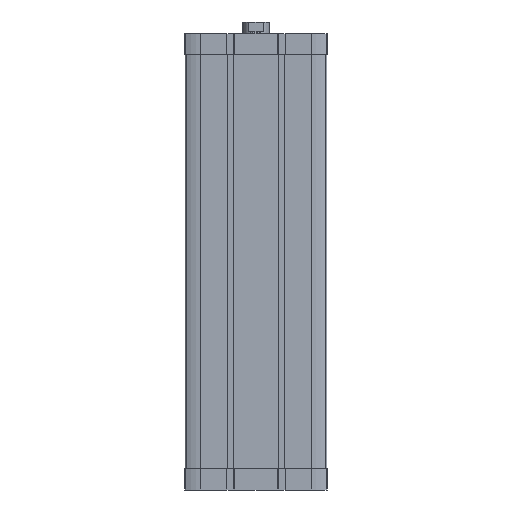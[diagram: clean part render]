
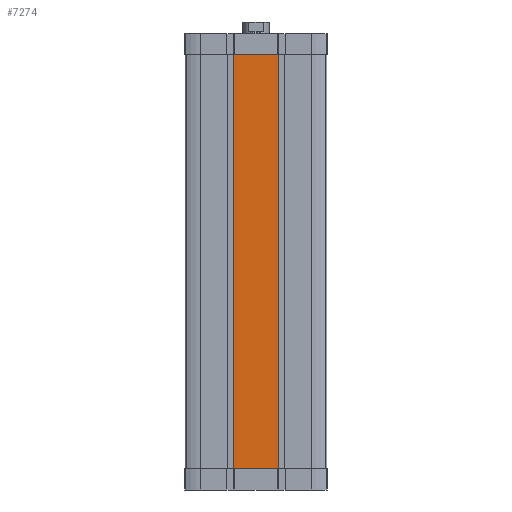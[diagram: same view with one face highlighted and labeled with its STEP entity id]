
A CAD part, front view. The second image highlights one B-rep face of the part: STEP entity #7274.
In plain terms, the highlighted planar face has unit normal (0, -1, 0).
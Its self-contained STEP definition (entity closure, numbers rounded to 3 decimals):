
#144 = CARTESIAN_POINT ( 'NONE',  ( -67., -67., -411. ) ) ;
#206 = CARTESIAN_POINT ( 'NONE',  ( 21.3, -67., -20. ) ) ;
#956 = VERTEX_POINT ( 'NONE', #5728 ) ;
#1327 = VERTEX_POINT ( 'NONE', #15003 ) ;
#1841 = EDGE_CURVE ( 'NONE', #9824, #10088, #9396, .T. ) ;
#2112 = DIRECTION ( 'NONE',  ( 1., 0., 0. ) ) ;
#2322 = VECTOR ( 'NONE', #16099, 1000. ) ;
#2388 = DIRECTION ( 'NONE',  ( 1., 0., 0. ) ) ;
#2421 = ORIENTED_EDGE ( 'NONE', *, *, #4755, .F. ) ;
#2435 = VERTEX_POINT ( 'NONE', #15104 ) ;
#2811 = EDGE_CURVE ( 'NONE', #11758, #9824, #5853, .T. ) ;
#2863 = DIRECTION ( 'NONE',  ( 1., 0., 0. ) ) ;
#3230 = ORIENTED_EDGE ( 'NONE', *, *, #11125, .T. ) ;
#3681 = CARTESIAN_POINT ( 'NONE',  ( 21.3, -67., -411. ) ) ;
#3686 = CARTESIAN_POINT ( 'NONE',  ( -67., -67., -411. ) ) ;
#3734 = FACE_OUTER_BOUND ( 'NONE', #11591, .T. ) ;
#3819 = PLANE ( 'NONE',  #16762 ) ;
#4186 = VECTOR ( 'NONE', #2863, 1000. ) ;
#4256 = VERTEX_POINT ( 'NONE', #206 ) ;
#4439 = LINE ( 'NONE', #12256, #2322 ) ;
#4755 = EDGE_CURVE ( 'NONE', #956, #11758, #16334, .T. ) ;
#5728 = CARTESIAN_POINT ( 'NONE',  ( -21.3, -67., -411. ) ) ;
#5853 = LINE ( 'NONE', #12447, #9299 ) ;
#5962 = LINE ( 'NONE', #3686, #14503 ) ;
#6224 = EDGE_CURVE ( 'NONE', #9412, #4256, #9793, .T. ) ;
#6707 = CARTESIAN_POINT ( 'NONE',  ( -21.3, -67., -20. ) ) ;
#7035 = DIRECTION ( 'NONE',  ( 0., 0., 1. ) ) ;
#7209 = VECTOR ( 'NONE', #14576, 1000. ) ;
#7274 = ADVANCED_FACE ( 'NONE', ( #3734 ), #3819, .T. ) ;
#7675 = CARTESIAN_POINT ( 'NONE',  ( -21.3, -67., -20. ) ) ;
#7844 = CARTESIAN_POINT ( 'NONE',  ( -20.687, -67., -20. ) ) ;
#7900 = LINE ( 'NONE', #10757, #7209 ) ;
#8107 = ORIENTED_EDGE ( 'NONE', *, *, #1841, .F. ) ;
#8327 = DIRECTION ( 'NONE',  ( 1., 0., 0. ) ) ;
#8965 = DIRECTION ( 'NONE',  ( 0., -1., 0. ) ) ;
#9269 = EDGE_CURVE ( 'NONE', #1327, #9412, #11017, .T. ) ;
#9299 = VECTOR ( 'NONE', #2112, 1000. ) ;
#9396 = LINE ( 'NONE', #6707, #4186 ) ;
#9412 = VERTEX_POINT ( 'NONE', #3681 ) ;
#9593 = VECTOR ( 'NONE', #7035, 1000. ) ;
#9793 = LINE ( 'NONE', #16317, #13236 ) ;
#9824 = VERTEX_POINT ( 'NONE', #7844 ) ;
#10003 = CARTESIAN_POINT ( 'NONE',  ( 20.687, -67., -20. ) ) ;
#10088 = VERTEX_POINT ( 'NONE', #10003 ) ;
#10757 = CARTESIAN_POINT ( 'NONE',  ( -21.3, -67., -411. ) ) ;
#11017 = LINE ( 'NONE', #144, #15732 ) ;
#11116 = CARTESIAN_POINT ( 'NONE',  ( -21.3, -67., -411. ) ) ;
#11125 = EDGE_CURVE ( 'NONE', #956, #2435, #5962, .T. ) ;
#11591 = EDGE_LOOP ( 'NONE', ( #2421, #3230, #12341, #13843, #13846, #16354, #8107, #13908 ) ) ;
#11758 = VERTEX_POINT ( 'NONE', #7675 ) ;
#12256 = CARTESIAN_POINT ( 'NONE',  ( -67., -67., -20. ) ) ;
#12341 = ORIENTED_EDGE ( 'NONE', *, *, #17146, .T. ) ;
#12447 = CARTESIAN_POINT ( 'NONE',  ( -67., -67., -20. ) ) ;
#13146 = EDGE_CURVE ( 'NONE', #10088, #4256, #4439, .T. ) ;
#13236 = VECTOR ( 'NONE', #15012, 1000. ) ;
#13843 = ORIENTED_EDGE ( 'NONE', *, *, #9269, .T. ) ;
#13846 = ORIENTED_EDGE ( 'NONE', *, *, #6224, .T. ) ;
#13908 = ORIENTED_EDGE ( 'NONE', *, *, #2811, .F. ) ;
#14104 = DIRECTION ( 'NONE',  ( 0., 0., -1. ) ) ;
#14503 = VECTOR ( 'NONE', #2388, 1000. ) ;
#14576 = DIRECTION ( 'NONE',  ( 1., 0., 0. ) ) ;
#15003 = CARTESIAN_POINT ( 'NONE',  ( 20.687, -67., -411. ) ) ;
#15012 = DIRECTION ( 'NONE',  ( 0., 0., 1. ) ) ;
#15104 = CARTESIAN_POINT ( 'NONE',  ( -20.687, -67., -411. ) ) ;
#15732 = VECTOR ( 'NONE', #8327, 1000. ) ;
#15740 = CARTESIAN_POINT ( 'NONE',  ( -67., -67., -411. ) ) ;
#16099 = DIRECTION ( 'NONE',  ( 1., 0., 0. ) ) ;
#16317 = CARTESIAN_POINT ( 'NONE',  ( 21.3, -67., -411. ) ) ;
#16334 = LINE ( 'NONE', #11116, #9593 ) ;
#16354 = ORIENTED_EDGE ( 'NONE', *, *, #13146, .F. ) ;
#16762 = AXIS2_PLACEMENT_3D ( 'NONE', #15740, #8965, #14104 ) ;
#17146 = EDGE_CURVE ( 'NONE', #2435, #1327, #7900, .T. ) ;
